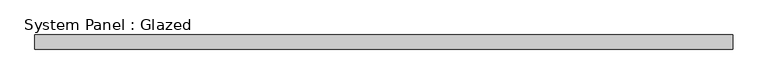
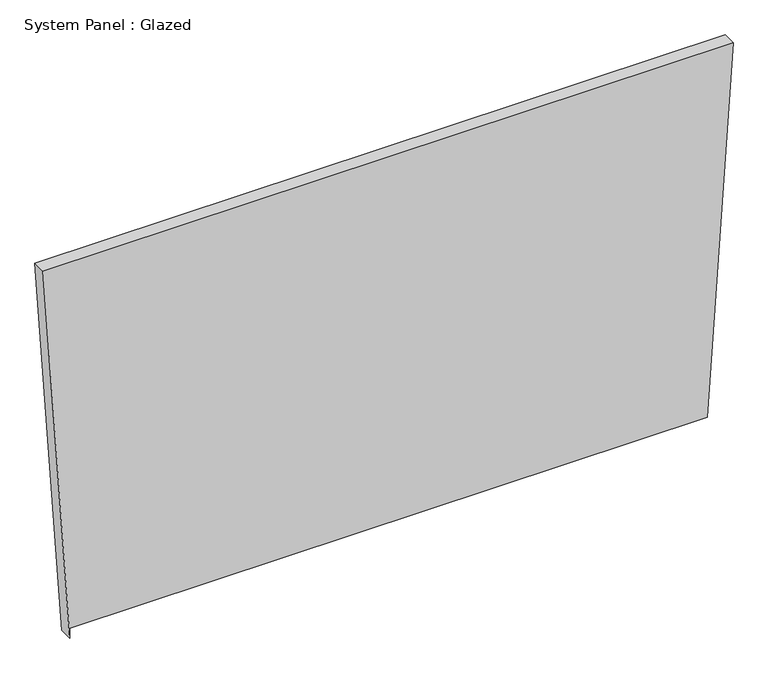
"""IFC4 building model written with IfcOpenShell, lengths in millimetres: plate geometry, System Panel : Glazed."""

from ifc_helpers import new_model, si_unit, frame, origin, place, context, project, spatial, polyline, outline, extrude, source, transform, mapped, element, save


def system_panel_glazed_ada13052(model_context):
    return source(origin(), model_context, "Body", "SweptSolid", [
        extrude(outline(polyline([(0.0, -580.0084337), (19.05, -580.0084473), (19.0508291, 581.2908658), (723.2683171, 628.6967643), (723.2680951, -628.6967643), (0.0, -580.0084337)])), frame((0.0, 19.05, 0.0), z_axis=(0.0, 1.0, 0.0), x_axis=(0.0, 0.0, 1.0)), (0.0, 0.0, 1.0), 25.4),
    ])


if __name__ == "__main__":
    model = new_model("IFC4")
    model_context = context("Model", 3, world=origin())
    ifc_project = project(units=[si_unit("LENGTHUNIT", "METRE", prefix="MILLI")], contexts=[model_context])
    site = spatial("IfcSite", under=ifc_project)
    building = spatial("IfcBuilding", under=site)
    placement = place(None, origin())
    system_panel_glazed_shape = system_panel_glazed_ada13052(model_context)
    element("IfcPlate", 1, ObjectType="System Panel : Glazed", at=placement, inside=building, context=model_context, shape_type="MappedRepresentation", body=[
        mapped(system_panel_glazed_shape, transform((0.0, 0.0, 0.0), x_axis=(1.0, 0.0, 0.0), y_axis=(0.0, 1.0, 0.0), z_axis=(0.0, 0.0, 1.0))),
    ])
    save(model, "model.ifc")
